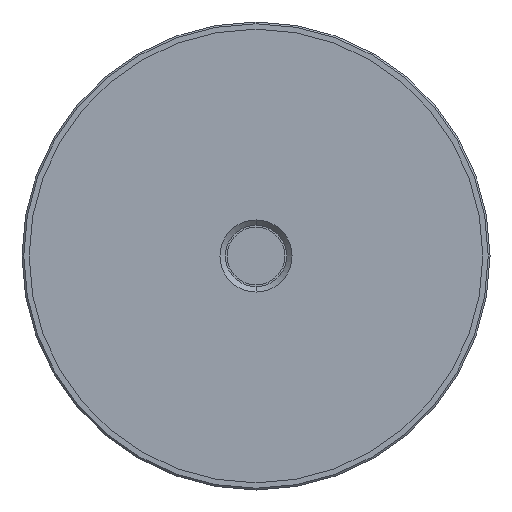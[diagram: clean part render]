
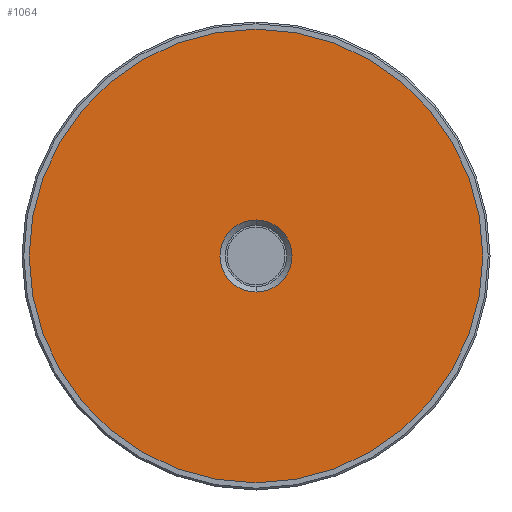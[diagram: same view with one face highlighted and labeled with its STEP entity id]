
A CAD part, front view. The second image highlights one B-rep face of the part: STEP entity #1064.
In plain terms, the highlighted planar face has unit normal (0, -1, 0).
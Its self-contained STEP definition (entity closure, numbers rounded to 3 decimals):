
#13 = DIRECTION ( 'NONE',  ( 0., 0., -1. ) ) ;
#82 = VERTEX_POINT ( 'NONE', #270 ) ;
#99 = CIRCLE ( 'NONE', #175, 10. ) ;
#100 = CARTESIAN_POINT ( 'NONE',  ( 0., -1.5, 0. ) ) ;
#114 = EDGE_LOOP ( 'NONE', ( #455, #865 ) ) ;
#175 = AXIS2_PLACEMENT_3D ( 'NONE', #806, #892, #13 ) ;
#186 = VERTEX_POINT ( 'NONE', #973 ) ;
#270 = CARTESIAN_POINT ( 'NONE',  ( 0., -1.5, 63. ) ) ;
#335 = DIRECTION ( 'NONE',  ( 0., 1., 0. ) ) ;
#408 = CARTESIAN_POINT ( 'NONE',  ( 0., -1.5, -10. ) ) ;
#410 = CARTESIAN_POINT ( 'NONE',  ( 0., -1.5, -63. ) ) ;
#427 = ORIENTED_EDGE ( 'NONE', *, *, #809, .F. ) ;
#455 = ORIENTED_EDGE ( 'NONE', *, *, #1253, .T. ) ;
#467 = PLANE ( 'NONE',  #931 ) ;
#498 = DIRECTION ( 'NONE',  ( 0., 0., -1. ) ) ;
#506 = AXIS2_PLACEMENT_3D ( 'NONE', #828, #335, #724 ) ;
#516 = FACE_BOUND ( 'NONE', #114, .T. ) ;
#554 = EDGE_LOOP ( 'NONE', ( #427, #1036 ) ) ;
#568 = CIRCLE ( 'NONE', #1023, 63. ) ;
#570 = DIRECTION ( 'NONE',  ( 0., 1., 0. ) ) ;
#595 = FACE_OUTER_BOUND ( 'NONE', #554, .T. ) ;
#674 = DIRECTION ( 'NONE',  ( 0., 0., 1. ) ) ;
#675 = CARTESIAN_POINT ( 'NONE',  ( 0., -1.5, 63. ) ) ;
#689 = VERTEX_POINT ( 'NONE', #410 ) ;
#692 = VERTEX_POINT ( 'NONE', #408 ) ;
#724 = DIRECTION ( 'NONE',  ( 0., 0., 1. ) ) ;
#760 = CARTESIAN_POINT ( 'NONE',  ( 0., -1.5, 0. ) ) ;
#783 = DIRECTION ( 'NONE',  ( 0., 1., 0. ) ) ;
#806 = CARTESIAN_POINT ( 'NONE',  ( 0., -1.5, 0. ) ) ;
#809 = EDGE_CURVE ( 'NONE', #82, #689, #1077, .T. ) ;
#828 = CARTESIAN_POINT ( 'NONE',  ( 0., -1.5, 0. ) ) ;
#855 = CIRCLE ( 'NONE', #1192, 10. ) ;
#865 = ORIENTED_EDGE ( 'NONE', *, *, #1204, .T. ) ;
#872 = DIRECTION ( 'NONE',  ( 0., 0., -1. ) ) ;
#892 = DIRECTION ( 'NONE',  ( 0., 1., 0. ) ) ;
#929 = EDGE_CURVE ( 'NONE', #689, #82, #568, .T. ) ;
#931 = AXIS2_PLACEMENT_3D ( 'NONE', #675, #1185, #872 ) ;
#973 = CARTESIAN_POINT ( 'NONE',  ( 0., -1.5, 10. ) ) ;
#1023 = AXIS2_PLACEMENT_3D ( 'NONE', #760, #570, #674 ) ;
#1036 = ORIENTED_EDGE ( 'NONE', *, *, #929, .F. ) ;
#1064 = ADVANCED_FACE ( 'NONE', ( #516, #595 ), #467, .T. ) ;
#1077 = CIRCLE ( 'NONE', #506, 63. ) ;
#1185 = DIRECTION ( 'NONE',  ( 0., -1., 0. ) ) ;
#1192 = AXIS2_PLACEMENT_3D ( 'NONE', #100, #783, #498 ) ;
#1204 = EDGE_CURVE ( 'NONE', #186, #692, #99, .T. ) ;
#1253 = EDGE_CURVE ( 'NONE', #692, #186, #855, .T. ) ;
